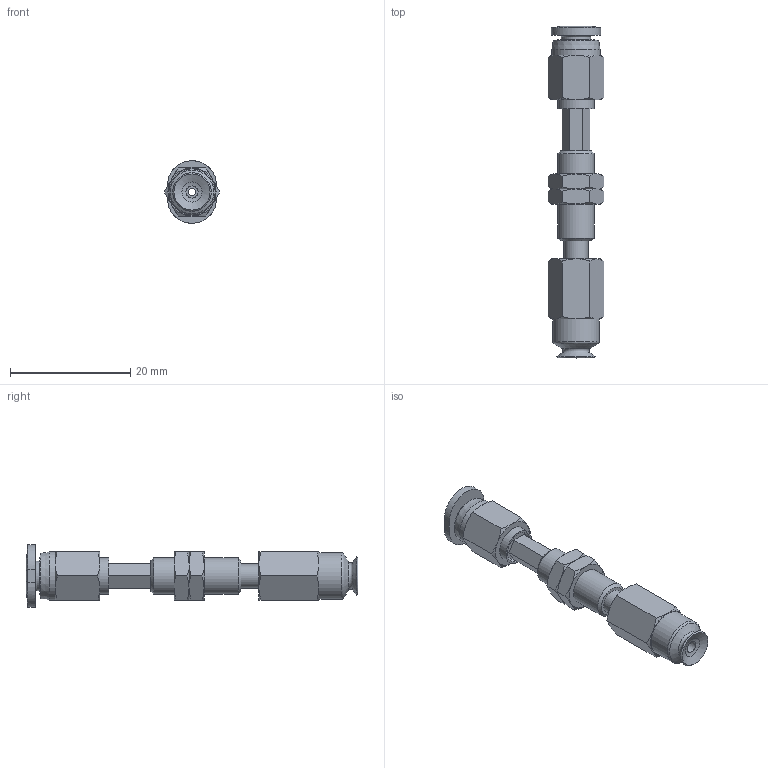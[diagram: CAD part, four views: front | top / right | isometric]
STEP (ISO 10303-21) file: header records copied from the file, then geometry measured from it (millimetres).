
FILE_DESCRIPTION(('STEP AP203'),'1');
FILE_NAME('-O.stp','2025-08-27T05:35:31',(' '),(' '),'Spatial InterOp 3D',' ',' ');
FILE_SCHEMA(('CONFIG_CONTROL_DESIGN'));
Length unit declared in the file: millimetre
Products named in the file (7): BNABPFTS-6A-3-※-O; ADAPTER; NAPCTS-7-3-MBODY; Nut-6A-3-s; NAPFTS-6A-3-FBODY; BPFG-6A-※; PC-C_04-M3
Assembly tree (7 placements, depth 2):
  BNABPFTS-6A-3-※-O
    ADAPTER
    NAPCTS-7-3-MBODY
    Nut-6A-3-s  x2
    NAPFTS-6A-3-FBODY
    BPFG-6A-※
    PC-C_04-M3
Bounding box: 9.24 x 55.27 x 10.4 mm (x, y, z)
Volume: 1445.1 mm3; surface area: 2886.1 mm2
Topology: 6 solids, 8 shells, 167 faces, 344 edges, 204 vertices
Faces by surface type: cone 64, plane 63, cylinder 23, torus 9, bspline 5, revolution 3
Full cylindrical faces by diameter (mm): 1.2 x2, 2 x1, 2.459 x1, 2.5 x2, 3 x1, 4 x4, 4.9 x1, 5.188 x2, 6 x4, 6.1 x1, 7.7 x1, 8 x1
Entity records: 4203 total; most frequent: CARTESIAN_POINT 1151, DIRECTION 567, ORIENTED_EDGE 482, AXIS2_PLACEMENT_3D 255, EDGE_CURVE 242, EDGE_LOOP 211, VERTEX_POINT 167, FACE_OUTER_BOUND 114
